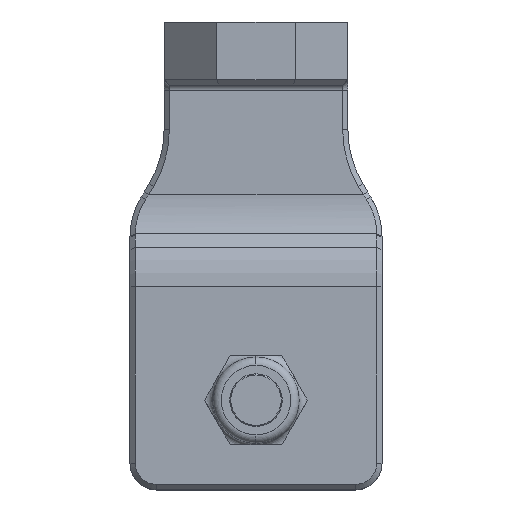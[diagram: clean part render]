
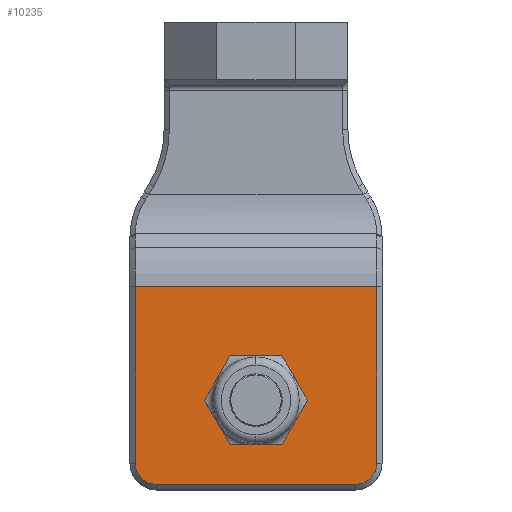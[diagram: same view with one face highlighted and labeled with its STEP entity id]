
A CAD part, top view. The second image highlights one B-rep face of the part: STEP entity #10235.
In plain terms, the highlighted planar face has unit normal (0, 0, 1).
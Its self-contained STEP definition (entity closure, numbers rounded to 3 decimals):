
#1176=DIRECTION('',(0.,-1.,0.));
#1177=VECTOR('',#1176,33.621);
#1178=CARTESIAN_POINT('',(-35.908,172.46,4.346));
#1179=LINE('',#1178,#1177);
#1193=DIRECTION('',(-1.,0.,0.));
#1194=VECTOR('',#1193,38.);
#1195=CARTESIAN_POINT('',(-39.908,134.839,4.346));
#1196=LINE('',#1195,#1194);
#1214=DIRECTION('',(0.,1.,0.));
#1215=VECTOR('',#1214,33.621);
#1216=CARTESIAN_POINT('',(-81.908,138.839,4.346));
#1217=LINE('',#1216,#1215);
#1239=DIRECTION('',(1.,0.,0.));
#1240=VECTOR('',#1239,46.);
#1241=CARTESIAN_POINT('',(-81.908,172.46,4.346));
#1242=LINE('',#1241,#1240);
#1313=CARTESIAN_POINT('',(-39.908,138.839,4.346));
#1314=DIRECTION('',(0.,0.,1.));
#1315=DIRECTION('',(0.,-1.,0.));
#1316=AXIS2_PLACEMENT_3D('',#1313,#1314,#1315);
#1318=CARTESIAN_POINT('',(-77.908,138.839,4.346));
#1319=DIRECTION('',(0.,0.,1.));
#1320=DIRECTION('',(-1.,0.,0.));
#1321=AXIS2_PLACEMENT_3D('',#1318,#1319,#1320);
#1323=CARTESIAN_POINT('',(-58.908,150.839,4.346));
#1324=DIRECTION('',(0.,0.,-1.));
#1325=DIRECTION('',(1.,0.,0.));
#1326=AXIS2_PLACEMENT_3D('',#1323,#1324,#1325);
#1328=CARTESIAN_POINT('',(-58.908,150.839,4.346));
#1329=DIRECTION('',(0.,0.,-1.));
#1330=DIRECTION('',(-1.,0.,0.));
#1331=AXIS2_PLACEMENT_3D('',#1328,#1329,#1330);
#6560=CARTESIAN_POINT('',(-35.908,138.839,4.346));
#6562=VERTEX_POINT('',#6560);
#6575=CARTESIAN_POINT('',(-39.908,134.839,4.346));
#6576=VERTEX_POINT('',#6575);
#6633=CARTESIAN_POINT('',(-81.908,172.46,4.346));
#6634=VERTEX_POINT('',#6633);
#6684=CARTESIAN_POINT('',(-77.908,134.839,4.346));
#6685=VERTEX_POINT('',#6684);
#6708=CARTESIAN_POINT('',(-81.908,138.839,4.346));
#6710=VERTEX_POINT('',#6708);
#6750=CARTESIAN_POINT('',(-52.408,150.839,4.346));
#6751=CARTESIAN_POINT('',(-65.408,150.839,4.346));
#6752=VERTEX_POINT('',#6750);
#6753=VERTEX_POINT('',#6751);
#6777=CARTESIAN_POINT('',(-35.908,172.46,4.346));
#6778=VERTEX_POINT('',#6777);
#10216=CARTESIAN_POINT('',(-58.908,133.839,
4.346));
#10217=DIRECTION('',(0.,0.,-1.));
#10218=DIRECTION('',(-1.,0.,0.));
#10219=AXIS2_PLACEMENT_3D('',#10216,#10217,#10218);
#10220=PLANE('',#10219);
#10221=ORIENTED_EDGE('',*,*,#10151,.T.);
#10222=ORIENTED_EDGE('',*,*,#10069,.T.);
#10223=ORIENTED_EDGE('',*,*,#10083,.F.);
#10224=ORIENTED_EDGE('',*,*,#10095,.T.);
#10225=ORIENTED_EDGE('',*,*,#10109,.F.);
#10226=ORIENTED_EDGE('',*,*,#10123,.T.);
#10227=EDGE_LOOP('',(#10221,#10222,#10223,#10224,#10225,#10226));
#10228=FACE_OUTER_BOUND('',#10227,.F.);
#10230=ORIENTED_EDGE('',*,*,#10229,.F.);
#10232=ORIENTED_EDGE('',*,*,#10231,.F.);
#10233=EDGE_LOOP('',(#10230,#10232));
#10234=FACE_BOUND('',#10233,.F.);
#10235=ADVANCED_FACE('',(#10228,#10234),#10220,.F.);
#1317=CIRCLE('',#1316,4.);
#1322=CIRCLE('',#1321,4.);
#1327=CIRCLE('',#1326,6.5);
#1332=CIRCLE('',#1331,6.5);
#10069=EDGE_CURVE('',#6778,#6562,#1179,.T.);
#10083=EDGE_CURVE('',#6576,#6562,#1317,.T.);
#10095=EDGE_CURVE('',#6576,#6685,#1196,.T.);
#10109=EDGE_CURVE('',#6710,#6685,#1322,.T.);
#10123=EDGE_CURVE('',#6710,#6634,#1217,.T.);
#10151=EDGE_CURVE('',#6634,#6778,#1242,.T.);
#10229=EDGE_CURVE('',#6752,#6753,#1327,.T.);
#10231=EDGE_CURVE('',#6753,#6752,#1332,.T.);
